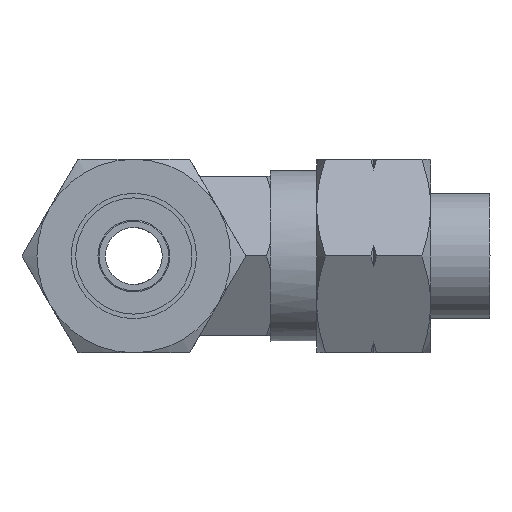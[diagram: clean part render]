
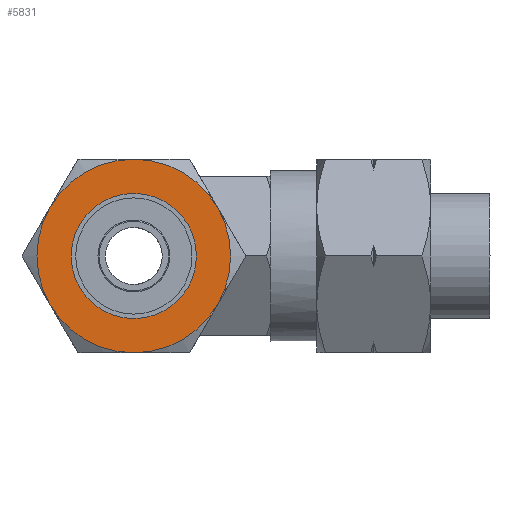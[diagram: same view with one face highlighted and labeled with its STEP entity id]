
A CAD part, left-side view. The second image highlights one B-rep face of the part: STEP entity #5831.
In plain terms, the highlighted planar face has unit normal (-1, 0, 0).
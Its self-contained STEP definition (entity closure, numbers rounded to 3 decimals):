
#3639=CARTESIAN_POINT('',(-26.059,0.,-8.5));
#3640=VERTEX_POINT('',#3639);
#4065=CARTESIAN_POINT('',(-26.059,7.361,-4.25));
#4066=VERTEX_POINT('',#4065);
#4491=CARTESIAN_POINT('',(-26.059,7.361,4.25));
#4492=VERTEX_POINT('',#4491);
#4757=CARTESIAN_POINT('',(-26.059,0.,8.5));
#4758=VERTEX_POINT('',#4757);
#4930=CARTESIAN_POINT('',(-26.059,-7.361,-4.25));
#4931=VERTEX_POINT('',#4930);
#5054=CARTESIAN_POINT('',(-26.059,-7.361,4.25));
#5055=VERTEX_POINT('',#5054);
#5364=CARTESIAN_POINT('',(-26.059,0.,0.0));
#5365=DIRECTION('',(1.0,0.0,0.0));
#5366=DIRECTION('',(0.0,1.0,0.0));
#5367=AXIS2_PLACEMENT_3D('',#5364,#5365,#5366);
#5368=CIRCLE('',#5367,8.5);
#5369=EDGE_CURVE('',#4758,#5055,#5368,.T.);
#5380=CARTESIAN_POINT('',(-26.059,0.,0.0));
#5381=DIRECTION('',(1.0,0.0,0.0));
#5382=DIRECTION('',(0.0,1.0,0.0));
#5383=AXIS2_PLACEMENT_3D('',#5380,#5381,#5382);
#5384=CIRCLE('',#5383,8.5);
#5385=EDGE_CURVE('',#4492,#4758,#5384,.T.);
#5397=CARTESIAN_POINT('',(-26.059,0.,0.0));
#5398=DIRECTION('',(1.0,0.0,0.0));
#5399=DIRECTION('',(0.0,1.0,0.0));
#5400=AXIS2_PLACEMENT_3D('',#5397,#5398,#5399);
#5401=CIRCLE('',#5400,8.5);
#5402=EDGE_CURVE('',#4066,#4492,#5401,.T.);
#5415=CARTESIAN_POINT('',(-26.059,0.,0.0));
#5416=DIRECTION('',(1.0,0.0,0.0));
#5417=DIRECTION('',(0.0,1.0,0.0));
#5418=AXIS2_PLACEMENT_3D('',#5415,#5416,#5417);
#5419=CIRCLE('',#5418,8.5);
#5420=EDGE_CURVE('',#5055,#4931,#5419,.T.);
#5432=CARTESIAN_POINT('',(-26.059,0.,0.0));
#5433=DIRECTION('',(1.0,0.0,0.0));
#5434=DIRECTION('',(0.0,1.0,0.0));
#5435=AXIS2_PLACEMENT_3D('',#5432,#5433,#5434);
#5436=CIRCLE('',#5435,8.5);
#5437=EDGE_CURVE('',#4931,#3640,#5436,.T.);
#5794=CARTESIAN_POINT('',(-26.059,5.5,0.0));
#5795=VERTEX_POINT('',#5794);
#5796=CARTESIAN_POINT('',(-26.059,0.,0.0));
#5797=DIRECTION('',(1.0,0.0,0.0));
#5798=DIRECTION('',(0.0,1.0,0.0));
#5799=AXIS2_PLACEMENT_3D('',#5796,#5797,#5798);
#5800=CIRCLE('',#5799,5.5);
#5801=EDGE_CURVE('',#5795,#5795,#5800,.T.);
#5809=CARTESIAN_POINT('',(-26.059,7.931,0.0));
#5810=DIRECTION('',(-1.0,0.0,0.0));
#5811=DIRECTION('',(0.0,0.0,1.0));
#5812=AXIS2_PLACEMENT_3D('',#5809,#5810,#5811);
#5813=PLANE('',#5812);
#5814=ORIENTED_EDGE('',*,*,#5402,.F.);
#5815=CARTESIAN_POINT('',(-26.059,0.,0.0));
#5816=DIRECTION('',(1.0,0.0,0.0));
#5817=DIRECTION('',(0.0,1.0,0.0));
#5818=AXIS2_PLACEMENT_3D('',#5815,#5816,#5817);
#5819=CIRCLE('',#5818,8.5);
#5820=EDGE_CURVE('',#3640,#4066,#5819,.T.);
#5821=ORIENTED_EDGE('',*,*,#5820,.F.);
#5822=ORIENTED_EDGE('',*,*,#5437,.F.);
#5823=ORIENTED_EDGE('',*,*,#5420,.F.);
#5824=ORIENTED_EDGE('',*,*,#5369,.F.);
#5825=ORIENTED_EDGE('',*,*,#5385,.F.);
#5826=EDGE_LOOP('',(#5814,#5821,#5822,#5823,#5824,#5825));
#5827=FACE_OUTER_BOUND('',#5826,.T.);
#5828=ORIENTED_EDGE('',*,*,#5801,.T.);
#5829=EDGE_LOOP('',(#5828));
#5830=FACE_BOUND('',#5829,.T.);
#5831=ADVANCED_FACE('',(#5827,#5830),#5813,.T.);
